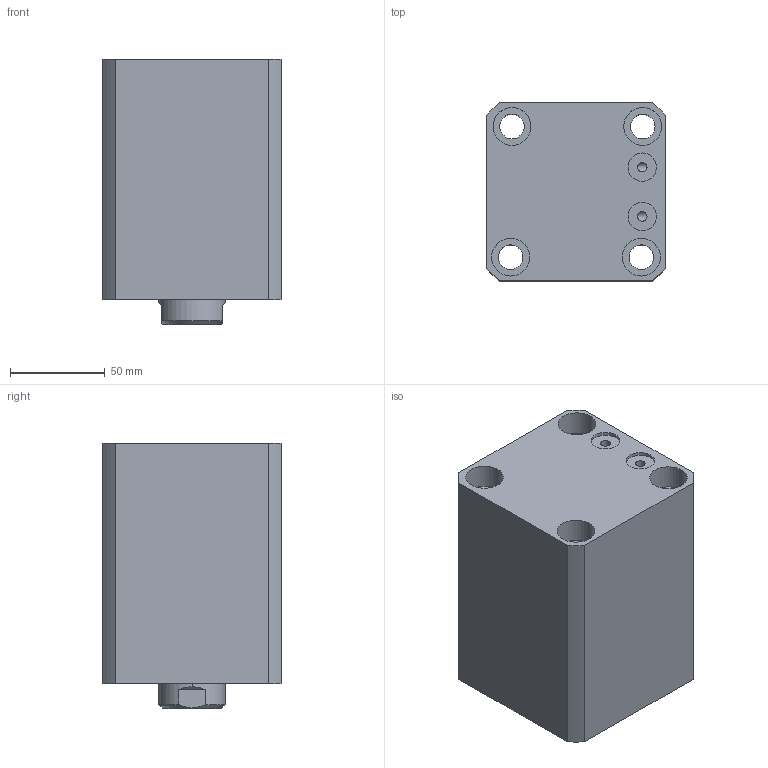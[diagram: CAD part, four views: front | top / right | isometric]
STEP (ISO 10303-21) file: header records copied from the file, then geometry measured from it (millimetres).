
FILE_DESCRIPTION (( 'STEP AP214' ), '1' );
FILE_NAME ('chtb-sdmb63x60n_asm.STEP', '2018-05-16T06:51:06', ( 'Windows' ), ( 'Microsoft' ), 'SwSTEP 2.0', 'SolidWorks 2015', '' );
FILE_SCHEMA (( 'AUTOMOTIVE_DESIGN' ));
Length unit declared in the file: millimetre
Products named in the file (4): CHTB-SDMB63X60NBT; CHTB63X60NHSG; CHTB-63QG; chtb-sdmb63x60n_asm
Assembly tree (3 placements, depth 2):
  chtb-sdmb63x60n_asm
    CHTB-63QG
    CHTB63X60NHSG
    CHTB-SDMB63X60NBT
Bounding box: 94 x 94 x 140 mm (x, y, z)
Volume: 896303.6 mm3; surface area: 153585.8 mm2
Topology: 3 solids, 3 shells, 164 faces, 468 edges, 318 vertices
Faces by surface type: cylinder 107, plane 30, bspline 12, cone 8, torus 7
Entity records: 17708 total; most frequent: CARTESIAN_POINT 13594, ORIENTED_EDGE 924, DIRECTION 707, EDGE_CURVE 462, VERTEX_POINT 318, AXIS2_PLACEMENT_3D 284, EDGE_LOOP 196, ADVANCED_FACE 164
